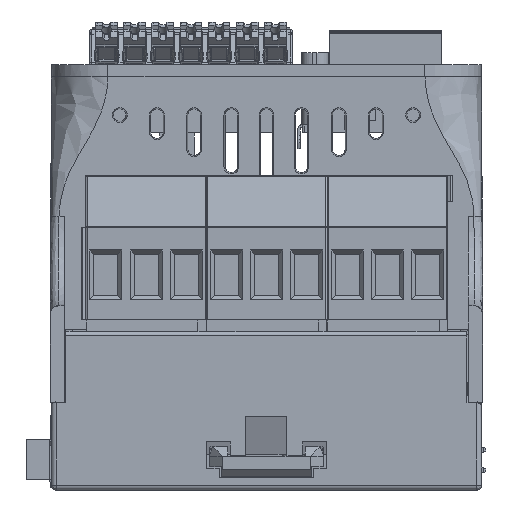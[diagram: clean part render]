
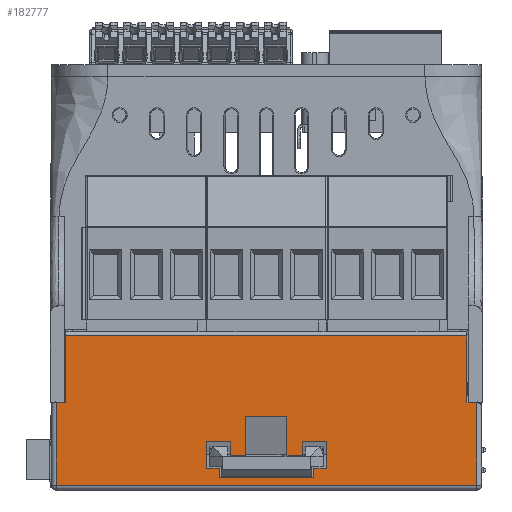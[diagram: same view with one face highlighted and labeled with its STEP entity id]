
A CAD part, front view. The second image highlights one B-rep face of the part: STEP entity #182777.
In plain terms, the highlighted planar face has unit normal (0, -1, 0).
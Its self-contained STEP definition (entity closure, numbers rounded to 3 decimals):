
#6820=FACE_BOUND('',#21215,.T.);
#11570=FACE_OUTER_BOUND('',#21214,.T.);
#21214=EDGE_LOOP('',(#134091,#134092,#134093,#134094,#134095,#134096,#134097,
#134098,#134099,#134100));
#21215=EDGE_LOOP('',(#134101,#134102,#134103,#134104,#134105,#134106,#134107,
#134108,#134109,#134110,#134111,#134112,#134113,#134114,#134115,#134116));
#35599=LINE('',#276909,#56640);
#35766=LINE('',#278829,#56807);
#35789=LINE('',#279071,#56830);
#35792=LINE('',#279082,#56833);
#35813=LINE('',#279134,#56854);
#36414=LINE('',#280545,#57455);
#36417=LINE('',#280550,#57458);
#36419=LINE('',#280554,#57460);
#36421=LINE('',#280558,#57462);
#36425=LINE('',#280564,#57466);
#36427=LINE('',#280568,#57468);
#36428=LINE('',#280571,#57469);
#36431=LINE('',#280576,#57472);
#36433=LINE('',#280580,#57474);
#36435=LINE('',#280584,#57476);
#36438=LINE('',#280589,#57479);
#36440=LINE('',#280593,#57481);
#36443=LINE('',#280598,#57484);
#36444=LINE('',#280601,#57485);
#36446=LINE('',#280605,#57487);
#36448=LINE('',#280608,#57489);
#36449=LINE('',#280611,#57490);
#36643=LINE('',#281117,#57684);
#36645=LINE('',#281120,#57686);
#36664=LINE('',#281164,#57705);
#36665=LINE('',#281166,#57706);
#56640=VECTOR('',#218298,1.);
#56807=VECTOR('',#218769,1.);
#56830=VECTOR('',#218832,1.);
#56833=VECTOR('',#218845,1.);
#56854=VECTOR('',#218882,1.);
#57455=VECTOR('',#220133,1.);
#57458=VECTOR('',#220138,1.);
#57460=VECTOR('',#220142,1.);
#57462=VECTOR('',#220146,1.);
#57466=VECTOR('',#220152,1.);
#57468=VECTOR('',#220156,1.);
#57469=VECTOR('',#220159,1.);
#57472=VECTOR('',#220164,1.);
#57474=VECTOR('',#220168,1.);
#57476=VECTOR('',#220172,1.);
#57479=VECTOR('',#220177,1.);
#57481=VECTOR('',#220181,1.);
#57484=VECTOR('',#220186,1.);
#57485=VECTOR('',#220189,1.);
#57487=VECTOR('',#220193,1.);
#57489=VECTOR('',#220197,1.);
#57490=VECTOR('',#220200,1.);
#57684=VECTOR('',#220682,1.);
#57686=VECTOR('',#220686,1.);
#57705=VECTOR('',#220733,1.);
#57706=VECTOR('',#220736,1.);
#75898=VERTEX_POINT('',#276111);
#75985=VERTEX_POINT('',#276907);
#76125=VERTEX_POINT('',#278826);
#76126=VERTEX_POINT('',#278828);
#76145=VERTEX_POINT('',#279069);
#76148=VERTEX_POINT('',#279081);
#76170=VERTEX_POINT('',#279131);
#76171=VERTEX_POINT('',#279133);
#76628=VERTEX_POINT('',#280452);
#76646=VERTEX_POINT('',#280542);
#76647=VERTEX_POINT('',#280544);
#76648=VERTEX_POINT('',#280548);
#76649=VERTEX_POINT('',#280552);
#76650=VERTEX_POINT('',#280557);
#76651=VERTEX_POINT('',#280562);
#76652=VERTEX_POINT('',#280566);
#76653=VERTEX_POINT('',#280570);
#76654=VERTEX_POINT('',#280575);
#76655=VERTEX_POINT('',#280579);
#76656=VERTEX_POINT('',#280583);
#76657=VERTEX_POINT('',#280588);
#76658=VERTEX_POINT('',#280592);
#76659=VERTEX_POINT('',#280596);
#76660=VERTEX_POINT('',#280600);
#76661=VERTEX_POINT('',#280604);
#76662=VERTEX_POINT('',#280610);
#96142=EDGE_CURVE('',#75898,#75985,#35599,.T.);
#96398=EDGE_CURVE('',#76126,#76125,#35766,.T.);
#96434=EDGE_CURVE('',#75985,#76145,#35789,.T.);
#96439=EDGE_CURVE('',#76148,#76126,#35792,.T.);
#96464=EDGE_CURVE('',#76171,#76170,#35813,.T.);
#97175=EDGE_CURVE('',#76647,#76646,#36414,.T.);
#97178=EDGE_CURVE('',#76648,#76647,#36417,.T.);
#97180=EDGE_CURVE('',#76648,#76649,#36419,.T.);
#97182=EDGE_CURVE('',#76649,#76650,#36421,.T.);
#97186=EDGE_CURVE('',#76651,#76650,#36425,.T.);
#97188=EDGE_CURVE('',#76651,#76652,#36427,.T.);
#97189=EDGE_CURVE('',#76653,#76652,#36428,.T.);
#97192=EDGE_CURVE('',#76653,#76654,#36431,.T.);
#97194=EDGE_CURVE('',#76655,#76654,#36433,.T.);
#97196=EDGE_CURVE('',#76655,#76656,#36435,.T.);
#97199=EDGE_CURVE('',#76656,#76657,#36438,.T.);
#97201=EDGE_CURVE('',#76658,#76657,#36440,.T.);
#97204=EDGE_CURVE('',#76659,#76658,#36443,.T.);
#97205=EDGE_CURVE('',#76660,#76659,#36444,.T.);
#97207=EDGE_CURVE('',#76661,#76660,#36446,.T.);
#97209=EDGE_CURVE('',#76646,#76661,#36448,.T.);
#97210=EDGE_CURVE('',#76662,#76628,#36449,.T.);
#97438=EDGE_CURVE('',#76628,#75898,#36643,.T.);
#97440=EDGE_CURVE('',#76145,#76171,#36645,.T.);
#97462=EDGE_CURVE('',#76148,#76170,#36664,.T.);
#97463=EDGE_CURVE('',#76125,#76662,#36665,.T.);
#134091=ORIENTED_EDGE('',*,*,#97463,.T.);
#134092=ORIENTED_EDGE('',*,*,#97210,.T.);
#134093=ORIENTED_EDGE('',*,*,#97438,.T.);
#134094=ORIENTED_EDGE('',*,*,#96142,.T.);
#134095=ORIENTED_EDGE('',*,*,#96434,.T.);
#134096=ORIENTED_EDGE('',*,*,#97440,.T.);
#134097=ORIENTED_EDGE('',*,*,#96464,.T.);
#134098=ORIENTED_EDGE('',*,*,#97462,.F.);
#134099=ORIENTED_EDGE('',*,*,#96439,.T.);
#134100=ORIENTED_EDGE('',*,*,#96398,.T.);
#134101=ORIENTED_EDGE('',*,*,#97209,.T.);
#134102=ORIENTED_EDGE('',*,*,#97207,.T.);
#134103=ORIENTED_EDGE('',*,*,#97205,.T.);
#134104=ORIENTED_EDGE('',*,*,#97204,.T.);
#134105=ORIENTED_EDGE('',*,*,#97201,.T.);
#134106=ORIENTED_EDGE('',*,*,#97199,.F.);
#134107=ORIENTED_EDGE('',*,*,#97196,.F.);
#134108=ORIENTED_EDGE('',*,*,#97194,.T.);
#134109=ORIENTED_EDGE('',*,*,#97192,.F.);
#134110=ORIENTED_EDGE('',*,*,#97189,.T.);
#134111=ORIENTED_EDGE('',*,*,#97188,.F.);
#134112=ORIENTED_EDGE('',*,*,#97186,.T.);
#134113=ORIENTED_EDGE('',*,*,#97182,.F.);
#134114=ORIENTED_EDGE('',*,*,#97180,.F.);
#134115=ORIENTED_EDGE('',*,*,#97178,.T.);
#134116=ORIENTED_EDGE('',*,*,#97175,.T.);
#166166=PLANE('',#193474);
#182777=ADVANCED_FACE('',(#11570,#6820),#166166,.F.);
#193474=AXIS2_PLACEMENT_3D('',#281165,#220734,#220735);
#218298=DIRECTION('',(-1.,0.,0.));
#218769=DIRECTION('',(-1.,0.,0.));
#218832=DIRECTION('',(-1.,0.,0.));
#218845=DIRECTION('',(-1.,0.,0.));
#218882=DIRECTION('',(-1.,0.,0.));
#220133=DIRECTION('',(1.,0.,0.));
#220138=DIRECTION('',(-0.009,0.,-1.));
#220142=DIRECTION('',(-1.,0.,0.009));
#220146=DIRECTION('',(0.009,0.,-1.));
#220152=DIRECTION('',(-1.,0.,0.));
#220156=DIRECTION('',(0.009,0.,-1.));
#220159=DIRECTION('',(-1.,0.,0.));
#220164=DIRECTION('',(0.009,0.,1.));
#220168=DIRECTION('',(-1.,0.,0.));
#220172=DIRECTION('',(0.009,0.,1.));
#220177=DIRECTION('',(-1.,0.,-0.009));
#220181=DIRECTION('',(-0.009,0.,1.));
#220186=DIRECTION('',(1.,0.,0.));
#220189=DIRECTION('',(0.,0.,-1.));
#220193=DIRECTION('',(1.,0.,0.));
#220197=DIRECTION('',(0.,0.,1.));
#220200=DIRECTION('',(1.,0.,0.));
#220682=DIRECTION('',(0.,0.,1.));
#220686=DIRECTION('',(0.,0.,1.));
#220733=DIRECTION('',(0.,0.,1.));
#220734=DIRECTION('center_axis',(0.,1.,0.));
#220735=DIRECTION('ref_axis',(0.,0.,
1.));
#220736=DIRECTION('',(0.,0.,-1.));
#276111=CARTESIAN_POINT('',(26.15,-44.644,4.871));
#276907=CARTESIAN_POINT('',(25.14,-44.644,4.871));
#276909=CARTESIAN_POINT('',(25.908,-44.644,4.871));
#278826=CARTESIAN_POINT('',(-26.15,-44.644,4.871));
#278828=CARTESIAN_POINT('',(-25.14,-44.644,4.871));
#278829=CARTESIAN_POINT('',(-25.908,-44.644,4.871));
#279069=CARTESIAN_POINT('',(24.941,-44.644,4.871));
#279071=CARTESIAN_POINT('',(25.908,-44.644,4.871));
#279081=CARTESIAN_POINT('',(-24.941,-44.644,4.871));
#279082=CARTESIAN_POINT('',(-25.908,-44.644,4.871));
#279131=CARTESIAN_POINT('',(-24.941,-44.644,13.156));
#279133=CARTESIAN_POINT('',(24.941,-44.644,13.156));
#279134=CARTESIAN_POINT('',(-38.979,-44.644,13.156));
#280452=CARTESIAN_POINT('',(26.15,-44.644,-5.4));
#280542=CARTESIAN_POINT('',(-2.55,-44.644,-1.725));
#280544=CARTESIAN_POINT('',(-4.498,-44.644,-1.725));
#280545=CARTESIAN_POINT('',(38.979,-44.644,-1.725));
#280548=CARTESIAN_POINT('',(-4.483,-44.644,-0.015));
#280550=CARTESIAN_POINT('',(-4.443,-44.644,4.558));
#280552=CARTESIAN_POINT('',(-7.496,-44.644,0.011));
#280554=CARTESIAN_POINT('',(-3.784,-44.644,-0.021));
#280557=CARTESIAN_POINT('',(-7.467,-44.644,-3.32));
#280558=CARTESIAN_POINT('',(-7.645,-44.644,17.1));
#280562=CARTESIAN_POINT('',(-5.867,-44.644,-3.32));
#280564=CARTESIAN_POINT('',(-3.728,-44.644,-3.32));
#280566=CARTESIAN_POINT('',(-5.857,-44.644,-4.5));
#280568=CARTESIAN_POINT('',(-5.855,-44.644,-4.646));
#280570=CARTESIAN_POINT('',(5.857,-44.644,-4.5));
#280571=CARTESIAN_POINT('',(-38.979,-44.644,-4.5));
#280575=CARTESIAN_POINT('',(5.867,-44.644,-3.32));
#280576=CARTESIAN_POINT('',(5.855,-44.644,-4.646));
#280579=CARTESIAN_POINT('',(7.467,-44.644,-3.32));
#280580=CARTESIAN_POINT('',(3.728,-44.644,-3.32));
#280583=CARTESIAN_POINT('',(7.496,-44.644,0.011));
#280584=CARTESIAN_POINT('',(7.645,-44.644,17.1));
#280588=CARTESIAN_POINT('',(4.483,-44.644,-0.015));
#280589=CARTESIAN_POINT('',(3.784,-44.644,-0.021));
#280592=CARTESIAN_POINT('',(4.498,-44.644,-1.725));
#280593=CARTESIAN_POINT('',(4.443,-44.644,4.558));
#280596=CARTESIAN_POINT('',(2.55,-44.644,-1.725));
#280598=CARTESIAN_POINT('',(-38.979,-44.644,-1.725));
#280600=CARTESIAN_POINT('',(2.55,-44.644,3.175));
#280601=CARTESIAN_POINT('',(2.55,-44.644,6.016));
#280604=CARTESIAN_POINT('',(-2.55,-44.644,3.175));
#280605=CARTESIAN_POINT('',(-38.979,-44.644,3.175));
#280608=CARTESIAN_POINT('',(-2.55,-44.644,6.016));
#280610=CARTESIAN_POINT('',(-26.15,-44.644,-5.4));
#280611=CARTESIAN_POINT('',(26.15,-44.644,-5.4));
#281117=CARTESIAN_POINT('',(26.15,-44.644,17.506));
#281120=CARTESIAN_POINT('',(24.941,-44.644,17.506));
#281164=CARTESIAN_POINT('',(-24.941,-44.644,17.506));
#281165=CARTESIAN_POINT('Origin',(-38.979,-44.644,17.506));
#281166=CARTESIAN_POINT('',(-26.15,-44.644,17.506));
